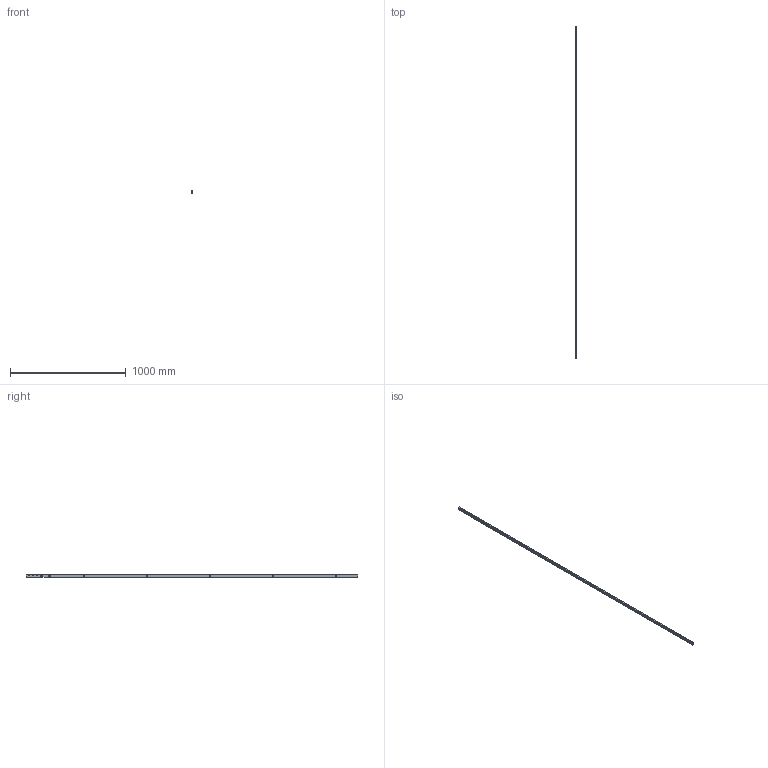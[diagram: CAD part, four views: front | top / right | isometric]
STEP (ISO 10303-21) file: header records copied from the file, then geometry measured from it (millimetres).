
FILE_DESCRIPTION (( 'STEP AP214' ), '1' );
FILE_NAME ('TPL-W-APC-522-U 15Oct2024.STEP', '2024-12-08T23:21:11', ( '' ), ( '' ), 'SwSTEP 2.0', 'SolidWorks 2023', '' );
FILE_SCHEMA (( 'AUTOMOTIVE_DESIGN' ));
Length unit declared in the file: millimetre
Products named in the file (19): Copy of COV-115-C Cover C suit TPLGen2 standard range AU^TPL-W-APC-009 11Oct2024; Copy of Adapter DnF - simplfied^TPL-W-APC-009 11Oct2024_26mm backset; Copy of Escutcheon plate keyed internal 280mm - simplified^Copy of TPGen2 handle keyed internal - simplified_TPL-W-APC-009 11Oct2024; Copy of Copy of LKC-531 Lock twinpoint transmission rod wood system^TPL-W-APC-009 11Oct2024_Standard Range 2891.7mm; Copy of TPLGen2 lock body keyed^Copy of TPLGen2 lock body keyed assembly_TPL-W-APC-009 11Oct2024; Copy of COV-115-B Cover B suit TPLGen2 standard range AU with hinge holes^TPL-W-APC-009 11Oct2024_2870mm; Bolt.step; Copy of Handle sub-assembly - simplified^Copy of TPGen2 handle keyed internal - simplified_TPL-W-APC-009 11Oct2024; Copy of COV-115-A Cover A suit TPLGen2 standard range AU with hinge holes^TPL-W-APC-009 11Oct2024_2870mm; Copy of Escutcheon plate keyed external 280mm - simplified^Copy of TPGen2 handle keyed external - simplified_TPL-W-APC-009 11Oct2024; Copy of LKC-547 Spindle - simplified^Copy of TPGen2 handle keyed external - simplified_TPL-W-APC-009 11Oct2024_E - 19mm; Copy of Handle sub-assembly - simplified^Copy of TPGen2 handle keyed external - simplified_TPL-W-APC-009 11Oct2024; TPL-W-APC-522-U 15Oct2024; Copy of LKC-547 Spindle - simplified^Copy of TPGen2 handle keyed internal - simplified_TPL-W-APC-009 11Oct2024_A - 11mm; Copy of TPL-036 Lock cylinder double key C4 3-5 PIN 55 (23-32)mm^TPL-W-APC-009 11Oct2024_Left; Copy of TPLGen2 push rod - simplified^Copy of TPLGen2 lock body keyed assembly_TPL-W-APC-009 11Oct2024_Female thread M10; Copy of Copy of Copy of LKC-531 Lock twinpoint transmission rod wood system^TPL-W-APC-009 11Oct2024_Standard Range 2891.7mm; Copy of Adapter CnE - simplfied^TPL-W-APC-009 11Oct2024_26mm backset
Assembly tree (3 placements, depth 2):
  Copy of COV-115-C Cover C suit TPLGen2 standard range AU^TPL-W-APC-009 11Oct2024
  Copy of Adapter DnF - simplfied^TPL-W-APC-009 11Oct2024_26mm backset
  Copy of Escutcheon plate keyed internal 280mm - simplified^Copy of TPGen2 handle keyed internal - simplified_TPL-W-APC-009 11Oct2024
  Copy of TPLGen2 lock body keyed^Copy of TPLGen2 lock body keyed assembly_TPL-W-APC-009 11Oct2024
  Copy of COV-115-B Cover B suit TPLGen2 standard range AU with hinge holes^TPL-W-APC-009 11Oct2024_2870mm
Bounding box: 10.8 x 2870 x 21 mm (x, y, z)
Volume: 381505.6 mm3; surface area: 313221.2 mm2
Topology: 3 solids, 3 shells, 177 faces, 541 edges, 358 vertices
Faces by surface type: plane 82, cylinder 71, cone 22, sphere 2
Entity records: 6960 total; most frequent: CARTESIAN_POINT 1802, ORIENTED_EDGE 1076, DIRECTION 988, EDGE_CURVE 538, VERTEX_POINT 357, AXIS2_PLACEMENT_3D 349, LINE 290, VECTOR 290
